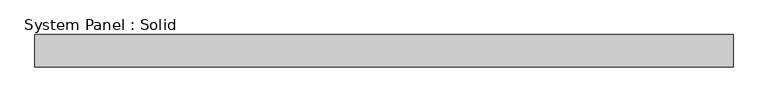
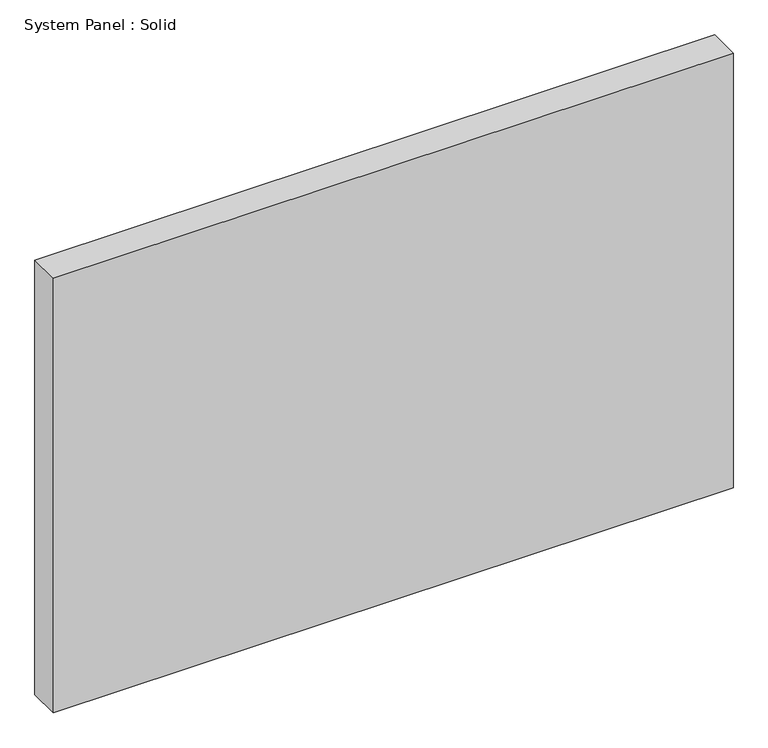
"""IFC4 building model written with IfcOpenShell, lengths in millimetres: plate geometry, System Panel : Solid."""

from ifc_helpers import new_model, si_unit, origin, origin_with_axes, place, context, project, spatial, polyline, outline, extrude, source, transform, mapped, element, save


def system_panel_solid_5118485c(model_context):
    return source(origin(), model_context, "Body", "SweptSolid", [
        extrude(outline(polyline([(681.2988156, -19.05), (-681.2988156, -19.05), (-681.2988156, 44.45), (681.2988156, 44.45), (681.2988156, -19.05)])), origin_with_axes(), (0.0, 0.0, 1.0), 920.75),
    ])


if __name__ == "__main__":
    model = new_model("IFC4")
    model_context = context("Model", 3, world=origin())
    ifc_project = project(units=[si_unit("LENGTHUNIT", "METRE", prefix="MILLI")], contexts=[model_context])
    site = spatial("IfcSite", under=ifc_project)
    building = spatial("IfcBuilding", under=site)
    placement = place(None, origin())
    system_panel_solid_shape = system_panel_solid_5118485c(model_context)
    element("IfcPlate", 1, ObjectType="System Panel : Solid", at=placement, inside=building, context=model_context, shape_type="MappedRepresentation", body=[
        mapped(system_panel_solid_shape, transform((0.0, 0.0, 0.0), x_axis=(1.0, 0.0, 0.0), y_axis=(0.0, 1.0, 0.0), z_axis=(0.0, 0.0, 1.0))),
    ])
    save(model, "model.ifc")
